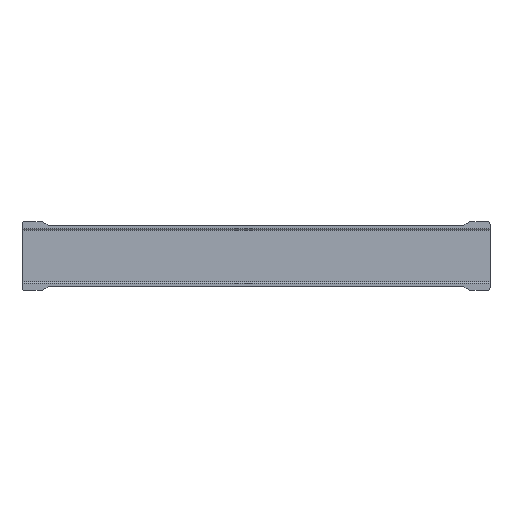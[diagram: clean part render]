
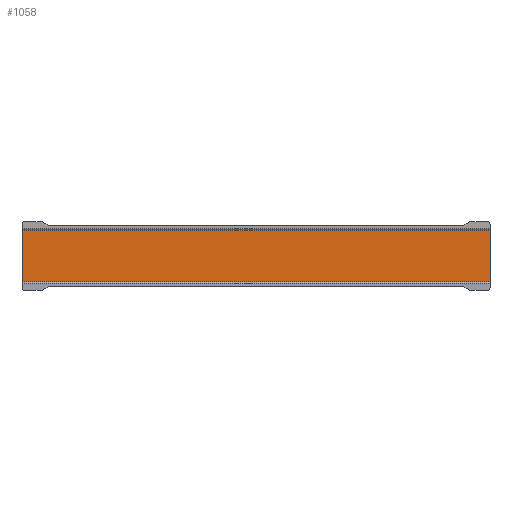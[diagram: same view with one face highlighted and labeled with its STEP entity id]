
A CAD part, top view. The second image highlights one B-rep face of the part: STEP entity #1058.
In plain terms, the highlighted planar face has unit normal (0, 0, 1).
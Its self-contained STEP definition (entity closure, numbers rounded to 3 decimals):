
#694=CARTESIAN_POINT('',(425.,47.,0.));
#695=VERTEX_POINT('',#694);
#703=CARTESIAN_POINT('',(425.,-47.,0.));
#704=VERTEX_POINT('',#703);
#705=CARTESIAN_POINT('',(425.,-47.,0.));
#706=DIRECTION('',(0.,1.,0.));
#707=VECTOR('',#706,94.);
#708=LINE('',#705,#707);
#709=EDGE_CURVE('NONE',#704,#695,#708,.T.);
#896=CARTESIAN_POINT('',(-425.,-47.,0.));
#897=VERTEX_POINT('',#896);
#905=CARTESIAN_POINT('',(-425.,47.,0.));
#906=VERTEX_POINT('',#905);
#907=CARTESIAN_POINT('',(-425.,47.,0.));
#908=DIRECTION('',(-0.,-1.,-0.));
#909=VECTOR('',#908,94.);
#910=LINE('',#907,#909);
#911=EDGE_CURVE('NONE',#906,#897,#910,.T.);
#1037=CARTESIAN_POINT('',(0.,0.,0.));
#1038=DIRECTION('',(0.,0.,1.));
#1039=DIRECTION('',(1.,0.,0.));
#1040=AXIS2_PLACEMENT_3D('',#1037,#1038,#1039);
#1041=PLANE('',#1040);
#1042=ORIENTED_EDGE('',*,*,#911,.T.);
#1043=CARTESIAN_POINT('',(425.,-47.,0.));
#1044=DIRECTION('',(-1.,-0.,0.));
#1045=VECTOR('',#1044,850.);
#1046=LINE('',#1043,#1045);
#1047=EDGE_CURVE('NONE',#704,#897,#1046,.T.);
#1048=ORIENTED_EDGE('',*,*,#1047,.F.);
#1049=ORIENTED_EDGE('',*,*,#709,.T.);
#1050=CARTESIAN_POINT('',(-425.,47.,0.));
#1051=DIRECTION('',(1.,-0.,-0.));
#1052=VECTOR('',#1051,850.);
#1053=LINE('',#1050,#1052);
#1054=EDGE_CURVE('NONE',#906,#695,#1053,.T.);
#1055=ORIENTED_EDGE('',*,*,#1054,.F.);
#1056=EDGE_LOOP('',(#1042,#1048,#1049,#1055));
#1057=FACE_BOUND('',#1056,.T.);
#1058=ADVANCED_FACE('NONE',(#1057),#1041,.T.);
